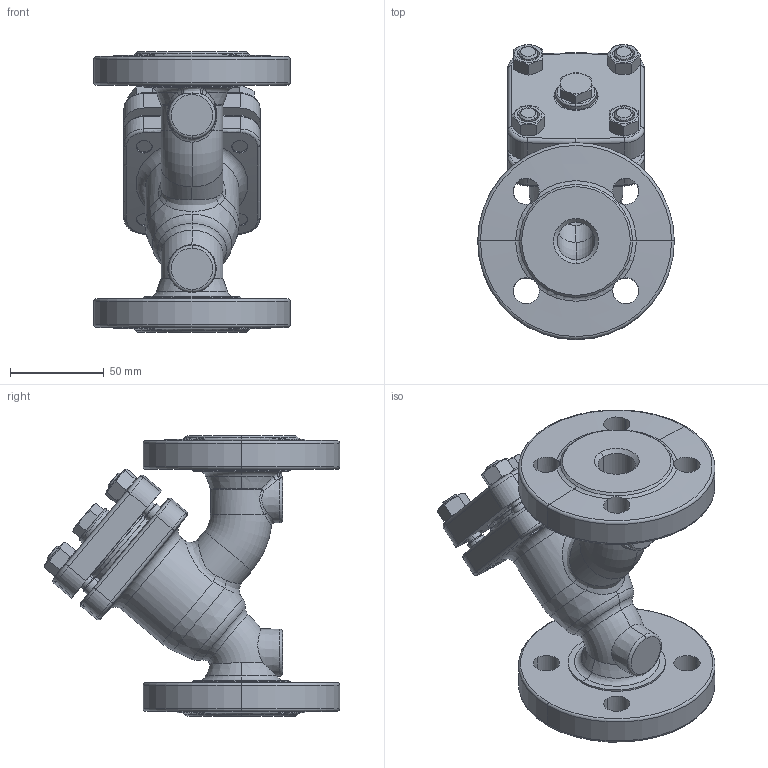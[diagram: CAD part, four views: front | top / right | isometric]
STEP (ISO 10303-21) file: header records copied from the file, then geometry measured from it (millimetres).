
FILE_DESCRIPTION (( 'STEP AP203' ), '1' );
FILE_NAME ('821_DN20 PN40.STEP', '2010-01-13T06:38:58', ( 'wtarnaws' ), ( '' ), 'SwSTEP 2.0', 'SolidWorks 2010', '' );
FILE_SCHEMA (( 'CONFIG_CONTROL_DESIGN' ));
Length unit declared in the file: millimetre
Products named in the file (6): 821_DN20 PN40; Kad³ub20; Pokrywa 20; Nakrêtka szeœciok¹tna PN-86_M-82144_M10; M10 x 30_PreviewCfg; KOREK 3-8_Default
Assembly tree (11 placements, depth 2):
  821_DN20 PN40
    Nakrêtka szeœciok¹tna PN-86_M-82144_M10  x4
    Pokrywa 20
    M10 x 30_PreviewCfg  x4
    Kad³ub20
    KOREK 3-8_Default
Bounding box: 105 x 157.68 x 150 mm (x, y, z)
Volume: 513263 mm3; surface area: 117846.2 mm2
Topology: 11 solids, 11 shells, 477 faces, 1078 edges, 632 vertices
Faces by surface type: cylinder 145, cone 123, plane 85, torus 84, bspline 38, sphere 2
Entity records: 23074 total; most frequent: CARTESIAN_POINT 14829, DIRECTION 1593, ORIENTED_EDGE 1544, EDGE_CURVE 772, AXIS2_PLACEMENT_3D 689, VERTEX_POINT 452, CIRCLE 380, EDGE_LOOP 376
